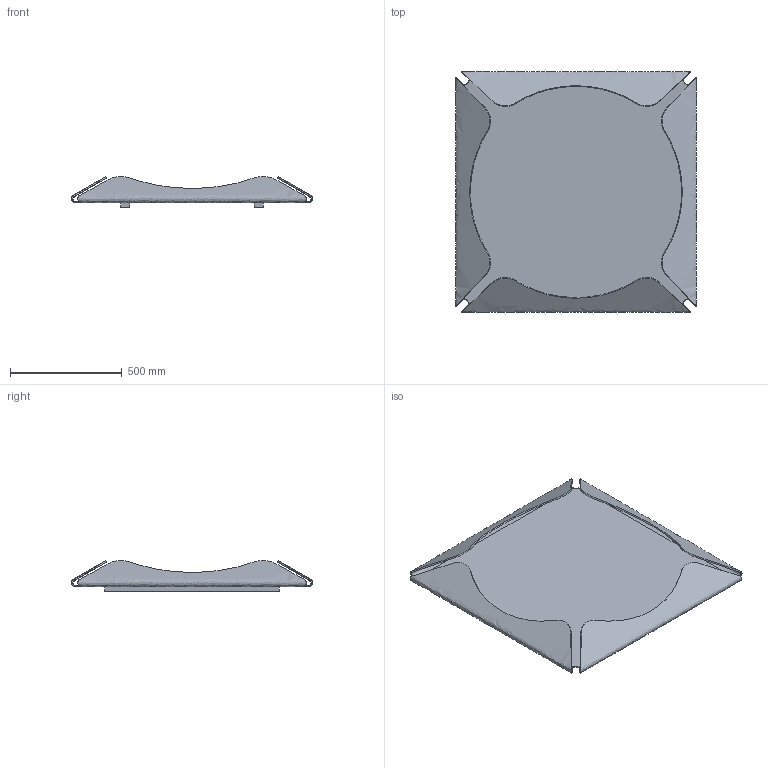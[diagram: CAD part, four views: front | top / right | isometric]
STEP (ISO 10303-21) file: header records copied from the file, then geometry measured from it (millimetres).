
FILE_DESCRIPTION(/* description */ (''),/* implementation_level */ '2;1');
FILE_NAME(/* name */ '360 - Gallery Circle 108x108',/* time_stamp */ '2010-11-02T14:37:18+01:00',/* author */ (''),/* organization */ (''),/* preprocessor_version */ 'ST-DEVELOPER v10',/* originating_system */ '',/* authorisation */ '');
FILE_SCHEMA (('CONFIG_CONTROL_DESIGN'));
Length unit declared in the file: centimetre
Products named in the file (1): 1
Bounding box: 1080 x 1080 x 137.3 mm (x, y, z)
Volume: 11808028.9 mm3; surface area: 4157952 mm2
Topology: 7 solids, 7 shells, 72 faces, 174 edges, 116 vertices
Faces by surface type: bspline 58, plane 14
Entity records: 3738 total; most frequent: CARTESIAN_POINT 2568, ORIENTED_EDGE 348, EDGE_CURVE 174, B_SPLINE_CURVE_WITH_KNOTS 122, VERTEX_POINT 116, EDGE_LOOP 80, ADVANCED_FACE 72, FACE_OUTER_BOUND 72
